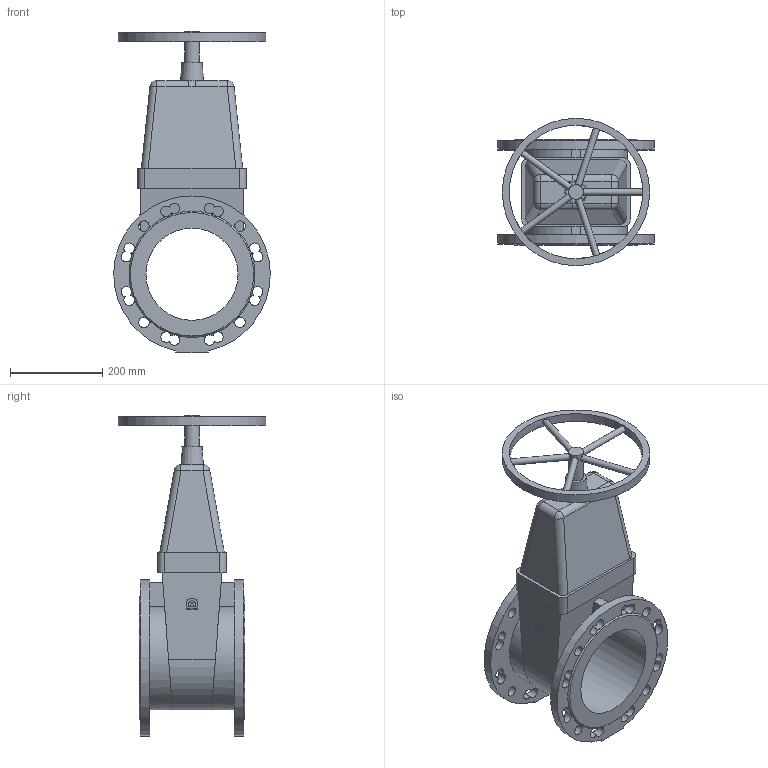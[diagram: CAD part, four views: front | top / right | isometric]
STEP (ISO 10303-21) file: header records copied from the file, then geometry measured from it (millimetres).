
FILE_DESCRIPTION(('STEP AP203'), '1');
FILE_NAME('Çàäâèæêà 47GV DN200 PN10_PN16_L230_W320 ñ ìàõîâèêîì', '', ('UNSPECIFIED'), ('UNSPECIFIED'), 'ASCON STEP Converter 1.6', 'ASCON Math Kernel', '');
FILE_SCHEMA(('CONFIG_CONTROL_DESIGN'));
Length unit declared in the file: millimetre
Bounding box: 339.95 x 320 x 697 mm (x, y, z)
Volume: 12571783.4 mm3; surface area: 882618 mm2
Topology: 1 solids, 1 shells, 162 faces, 486 edges, 307 vertices
Faces by surface type: plane 77, cylinder 76, bspline 6, cone 3
Full cylindrical faces by diameter (mm): 14 x5, 23 x8, 32 x1, 200 x1, 290 x1, 320 x1
Entity records: 10105 total; most frequent: CARTESIAN_POINT 4344, DIRECTION 962, ORIENTED_EDGE 912, EDGE_CURVE 456, AXIS2_PLACEMENT_3D 403, VERTEX_POINT 304, CIRCLE 246, EDGE_LOOP 230
